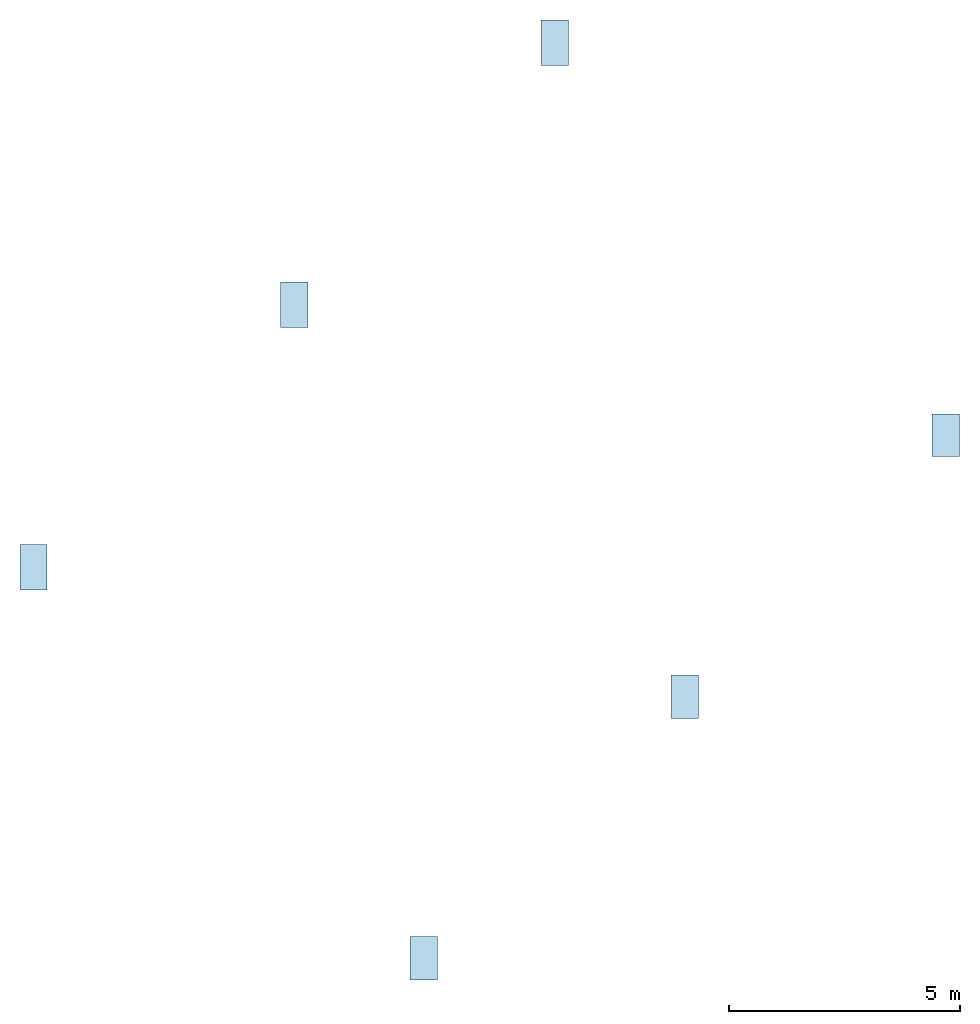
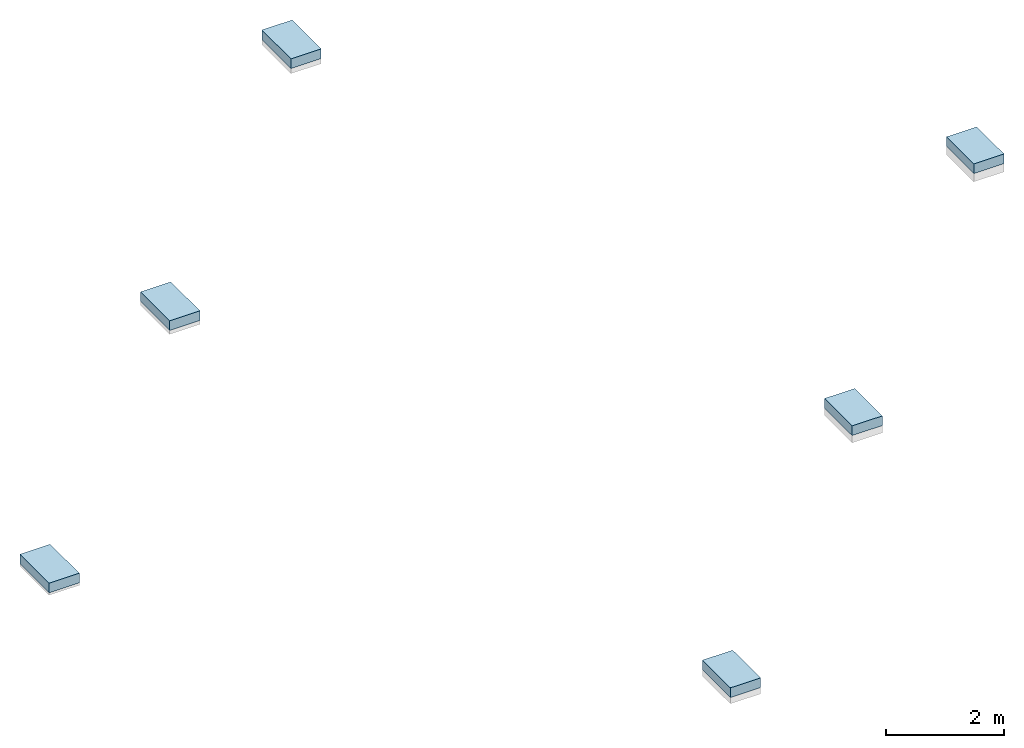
# One storey, part 1 of 2: 6 slabs.
"""IFC2X3 building model written with IfcOpenShell, lengths in millimetres."""

from ifc_helpers import new_model, entity, si_unit, converted_unit, derived_unit, direction, frame, frame_2d, origin, origin_2d_with_axis, place, context, subcontext, project, spatial, rectangle, extrude, material, layer, layer_set, layer_usage, element, save


model = new_model("IFC2X3")

# Units and contexts
model_context = context("Model", 3, precision=0.01, world=origin(), true_north=direction((6.12303176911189e-17, 1.0)))
context_of_model = context(None, 3, precision=0.01, world=origin(), true_north=direction((6.12303176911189e-17, 1.0)))
body_context = subcontext(model_context, "Body", "Model", "MODEL_VIEW")
ifc_project = project(units=[si_unit("LENGTHUNIT", "METRE", prefix="MILLI"), si_unit("AREAUNIT", "SQUARE_METRE"), si_unit("VOLUMEUNIT", "CUBIC_METRE"), converted_unit("PLANEANGLEUNIT", "DEGREE", entity("IfcRatioMeasure", 0.0174532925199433), si_unit("PLANEANGLEUNIT", "RADIAN"), dimensions=[0, 0, 0, 0, 0, 0, 0]), si_unit("MASSUNIT", "GRAM", prefix="KILO"), si_unit("TIMEUNIT", "SECOND"), si_unit("FREQUENCYUNIT", "HERTZ"), si_unit("THERMODYNAMICTEMPERATUREUNIT", "DEGREE_CELSIUS"), derived_unit("THERMALTRANSMITTANCEUNIT", [(si_unit("MASSUNIT", "GRAM", prefix="KILO"), 1), (si_unit("THERMODYNAMICTEMPERATUREUNIT", "KELVIN"), -1), (si_unit("TIMEUNIT", "SECOND"), -3)]), derived_unit("VOLUMETRICFLOWRATEUNIT", [(si_unit("LENGTHUNIT", "METRE"), 3), (si_unit("TIMEUNIT", "SECOND"), -1)]), si_unit("ELECTRICCURRENTUNIT", "AMPERE"), si_unit("ELECTRICVOLTAGEUNIT", "VOLT"), si_unit("POWERUNIT", "WATT"), si_unit("FORCEUNIT", "NEWTON", prefix="KILO"), si_unit("ILLUMINANCEUNIT", "LUX"), si_unit("LUMINOUSFLUXUNIT", "LUMEN"), si_unit("LUMINOUSINTENSITYUNIT", "CANDELA"), derived_unit("USERDEFINED", [(si_unit("MASSUNIT", "GRAM", prefix="KILO"), -1), (si_unit("LENGTHUNIT", "METRE"), -2), (si_unit("TIMEUNIT", "SECOND"), 3), (si_unit("LUMINOUSFLUXUNIT", "LUMEN"), 1)]), derived_unit("LINEARVELOCITYUNIT", [(si_unit("LENGTHUNIT", "METRE"), 1), (si_unit("TIMEUNIT", "SECOND"), -1)]), si_unit("PRESSUREUNIT", "PASCAL"), derived_unit("USERDEFINED", [(si_unit("LENGTHUNIT", "METRE"), -2), (si_unit("MASSUNIT", "GRAM", prefix="KILO"), 1), (si_unit("TIMEUNIT", "SECOND"), -2)])], contexts=[model_context, context_of_model])

# Site, building, storey
site_placement = place(None, origin())
site = spatial("IfcSite", under=ifc_project, at=site_placement, Name="Default", CompositionType="ELEMENT")
building_placement = place(site_placement, origin())
building = spatial("IfcBuilding", under=site, at=building_placement, CompositionType="ELEMENT")
storey_placement = place(building_placement, frame((0.0, 0.0, 985.0)))
storey = spatial("IfcBuildingStorey", under=building, at=storey_placement, Name="01 eerste verdieping", CompositionType="ELEMENT", Elevation=985.0)

# Slabs
ifc_material = material(Name="Concrete, Precast Panels")
ifc_layer = layer(ifc_material, 200.0)
ifc_layer_set = layer_set([ifc_layer], Name="Floor:Generic 200mm")
ifc_layer_usage_1 = layer_usage(ifc_layer_set, "AXIS3", "POSITIVE", 0.0)
slab_1_placement = place(storey_placement, origin())
element("IfcSlab", 1, at=slab_1_placement, inside=storey, material=ifc_layer_usage_1, Name="Floor:Generic 200mm", ObjectType="Floor:Generic 200mm", PredefinedType="FLOOR", context=body_context, shape_type="SweptSolid", body=[
    extrude(rectangle(XDim=985.0, YDim=590.0, at=origin_2d_with_axis()), frame((295.0, 2027.49999999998, 200.0), z_axis=(0.0, 0.0, -1.0), x_axis=(0.0, 1.0, 0.0)), (0.0, 0.0, 1.0), 200.0),
])
ifc_layer_usage_2 = layer_usage(ifc_layer_set, "AXIS3", "POSITIVE", 0.0)
slab_2_placement = place(storey_placement, origin())
element("IfcSlab", 2, at=slab_2_placement, inside=storey, material=ifc_layer_usage_2, Name="Floor:Generic 200mm", ObjectType="Floor:Generic 200mm", PredefinedType="FLOOR", context=body_context, shape_type="SweptSolid", body=[
    extrude(rectangle(XDim=985.0, YDim=589.999999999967, at=frame_2d((-5.6843418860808e-13, -5.6843418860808e-13), x_axis=(1.0, 0.0))), frame((5936.85424949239, 7714.35424949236, 200.0), z_axis=(0.0, 0.0, -1.0), x_axis=(0.0, 1.0, 0.0)), (0.0, 0.0, 1.0), 200.0),
])
ifc_layer_usage_3 = layer_usage(ifc_layer_set, "AXIS3", "POSITIVE", 0.0)
slab_3_placement = place(storey_placement, origin())
element("IfcSlab", 3, at=slab_3_placement, inside=storey, material=ifc_layer_usage_3, Name="Floor:Generic 200mm", ObjectType="Floor:Generic 200mm", PredefinedType="FLOOR", context=body_context, shape_type="SweptSolid", body=[
    extrude(rectangle(XDim=985.000000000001, YDim=589.999999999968, at=frame_2d((0.0, 1.10844666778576e-12), x_axis=(1.0, 0.0))), frame((11581.2084989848, 13383.7084989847, 200.0), z_axis=(0.0, 0.0, -1.0), x_axis=(0.0, 1.0, 0.0)), (0.0, 0.0, 1.0), 200.0),
])
ifc_layer_usage_4 = layer_usage(ifc_layer_set, "AXIS3", "POSITIVE", 0.0)
slab_4_placement = place(storey_placement, origin())
element("IfcSlab", 4, at=slab_4_placement, inside=storey, material=ifc_layer_usage_4, Name="Floor:Generic 200mm", ObjectType="Floor:Generic 200mm", PredefinedType="FLOOR", context=body_context, shape_type="SweptSolid", body=[
    extrude(rectangle(XDim=925.000000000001, YDim=589.999999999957, at=frame_2d((-5.40012479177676e-13, -2.1600499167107e-12), x_axis=(1.0, 0.0))), frame((20043.9898732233, 4885.92712474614, 200.0), z_axis=(0.0, 0.0, -1.0), x_axis=(0.0, 1.0, 0.0)), (0.0, 0.0, 1.0), 200.0),
])
ifc_layer_usage_5 = layer_usage(ifc_layer_set, "AXIS3", "POSITIVE", 0.0)
slab_5_placement = place(storey_placement, origin())
element("IfcSlab", 5, at=slab_5_placement, inside=storey, material=ifc_layer_usage_5, Name="Floor:Generic 200mm", ObjectType="Floor:Generic 200mm", PredefinedType="FLOOR", context=body_context, shape_type="SweptSolid", body=[
    extrude(rectangle(XDim=935.000000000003, YDim=589.999999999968, at=frame_2d((0.0, 1.10844666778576e-12), x_axis=(1.0, 0.0))), frame((14392.1356237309, -775.927124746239, 200.0), z_axis=(0.0, 0.0, -1.0), x_axis=(0.0, 1.0, 0.0)), (0.0, 0.0, 1.0), 200.0),
])
ifc_layer_usage_6 = layer_usage(ifc_layer_set, "AXIS3", "POSITIVE", 0.0)
slab_6_placement = place(storey_placement, origin())
element("IfcSlab", 6, at=slab_6_placement, inside=storey, material=ifc_layer_usage_6, Name="Floor:Generic 200mm", ObjectType="Floor:Generic 200mm", PredefinedType="FLOOR", context=body_context, shape_type="SweptSolid", body=[
    extrude(rectangle(XDim=944.999999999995, YDim=589.999999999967, at=frame_2d((0.0, -5.6843418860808e-13), x_axis=(1.0, 0.0))), frame((8740.28137423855, -6437.78137423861, 200.0), z_axis=(0.0, 0.0, -1.0), x_axis=(0.0, 1.0, 0.0)), (0.0, 0.0, 1.0), 200.0),
])

save(model, "model.ifc")
